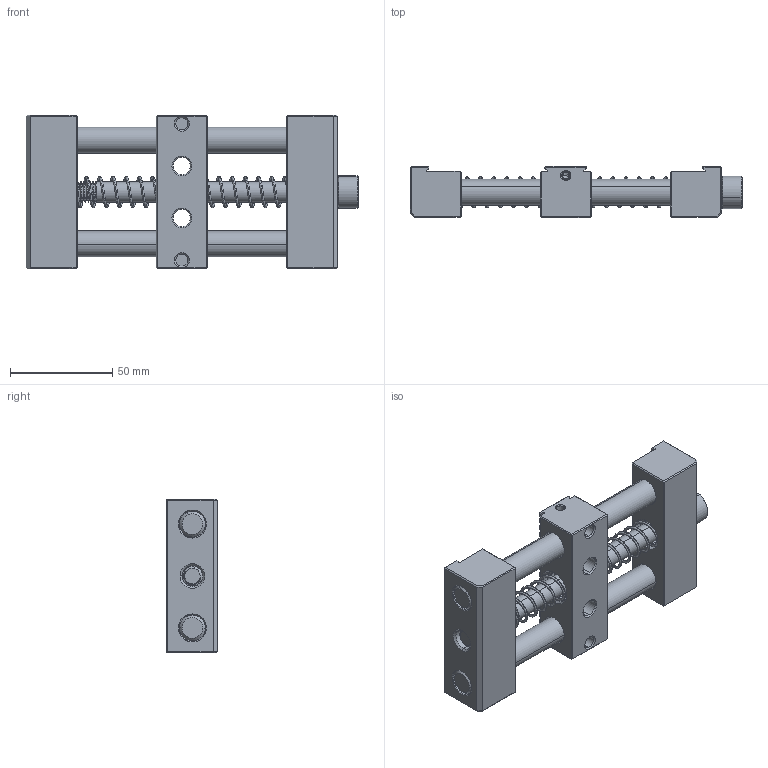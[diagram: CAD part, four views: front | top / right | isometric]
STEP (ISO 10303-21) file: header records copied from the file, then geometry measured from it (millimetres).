
FILE_DESCRIPTION (( 'STEP AP214' ), '1' );
FILE_NAME ('PV3X-6A REV A.STEP', '2021-04-07T20:28:03', ( '' ), ( '' ), 'SwSTEP 2.0', 'SolidWorks 2019', '' );
FILE_SCHEMA (( 'AUTOMOTIVE_DESIGN' ));
Length unit declared in the file: inch
Products named in the file (7): M10X150.SHCS_91290A558; LC045H10 M; PV3X-6A REV A; PV3X-1_FINISHED PART ; 0500X6000.DP_0500X6000.DP; PV3X-2A_FINISHED PART; PV3X-3A_FINISHED PART
Assembly tree (8 placements, depth 2):
  PV3X-6A REV A
    PV3X-1_FINISHED PART 
    PV3X-2A_FINISHED PART
    PV3X-3A_FINISHED PART
    0500X6000.DP_0500X6000.DP  x2
    LC045H10 M  x2
    M10X150.SHCS_91290A558
Bounding box: 162.4 x 24.99 x 75 mm (x, y, z)
Volume: 149059.9 mm3; surface area: 56903.8 mm2
Topology: 8 solids, 8 shells, 590 faces, 1548 edges, 986 vertices
Faces by surface type: plane 267, cylinder 235, cone 74, bspline 14
Entity records: 30837 total; most frequent: CARTESIAN_POINT 17419, ORIENTED_EDGE 3016, DIRECTION 2493, EDGE_CURVE 1508, VERTEX_POINT 964, AXIS2_PLACEMENT_3D 861, VECTOR 771, LINE 771
